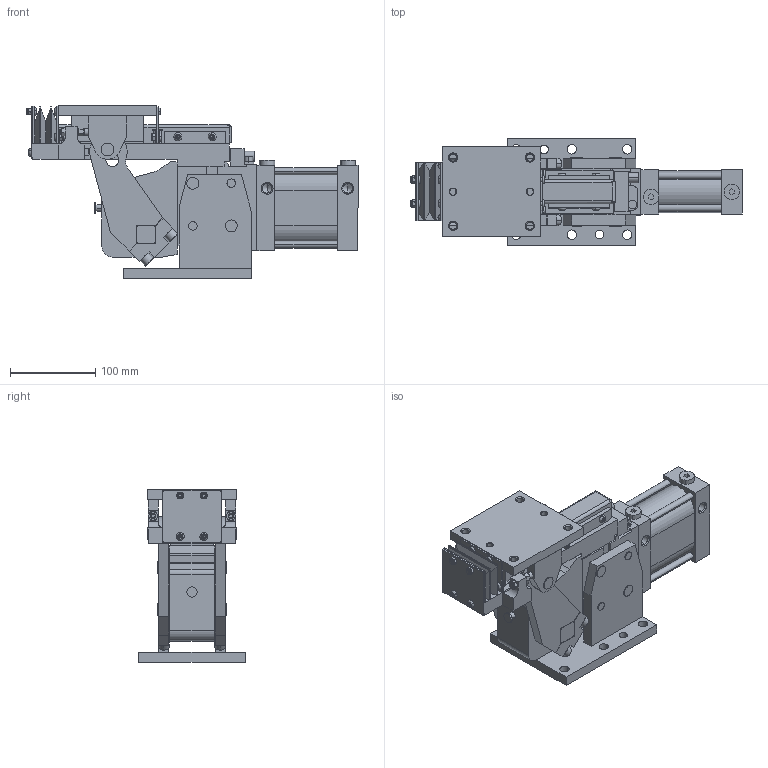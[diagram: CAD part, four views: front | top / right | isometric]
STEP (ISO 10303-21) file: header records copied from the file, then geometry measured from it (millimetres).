
FILE_DESCRIPTION (( 'STEP AP214' ), '1' );
FILE_NAME ('slcp63_90_xx_f_s3.STEP', '2019-09-19T12:51:31', ( '' ), ( '' ), 'SwSTEP 2.0', 'SolidWorks 2019', '' );
FILE_SCHEMA (( 'AUTOMOTIVE_DESIGN' ));
Length unit declared in the file: millimetre
Products named in the file (10): soffietto_slcp63; slcp63_90_xx_x_x; riparo_binario_post_slcp63; staffa_reazione_destra_slcp63_dx; leva_slcp63; piastra_superiore_slcp63; staffa_reazione_sinistra_slcp63_sx; tappo cil G1_4 din908_rondella rame; slcp63_90_xx_f_s3; blocchetto_VEP_0
Assembly tree (10 placements, depth 2):
  slcp63_90_xx_f_s3
    slcp63_90_xx_x_x
    piastra_superiore_slcp63
    leva_slcp63
    blocchetto_VEP_0
    staffa_reazione_destra_slcp63_dx
    staffa_reazione_sinistra_slcp63_sx
    tappo cil G1_4 din908_rondella rame  x2
    riparo_binario_post_slcp63
    soffietto_slcp63
Bounding box: 389 x 125 x 202.5 mm (x, y, z)
Volume: 2813938.6 mm3; surface area: 419932.6 mm2
Topology: 49 solids, 63 shells, 1797 faces, 4344 edges, 2661 vertices
Faces by surface type: plane 808, cone 492, cylinder 441, torus 56
Entity records: 65154 total; most frequent: CARTESIAN_POINT 10603, DIRECTION 8950, ORIENTED_EDGE 8428, EDGE_CURVE 4214, AXIS2_PLACEMENT_3D 3288, VERTEX_POINT 2641, VECTOR 2374, LINE 2374
